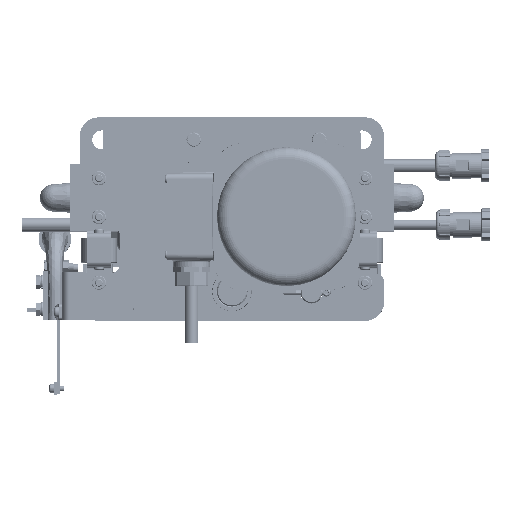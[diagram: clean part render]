
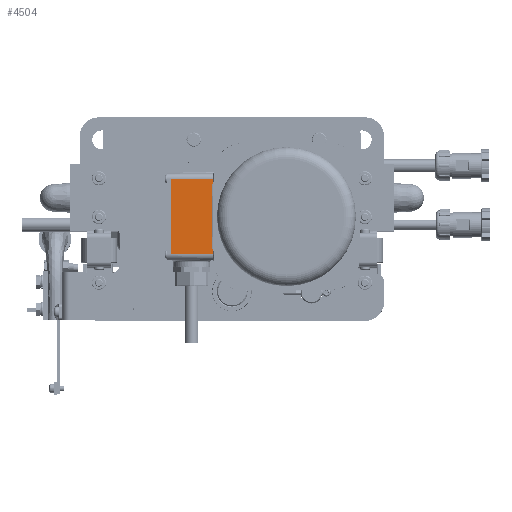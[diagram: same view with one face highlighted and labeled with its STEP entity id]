
A CAD part, top view. The second image highlights one B-rep face of the part: STEP entity #4504.
In plain terms, the highlighted planar face has unit normal (0, 0, 1).
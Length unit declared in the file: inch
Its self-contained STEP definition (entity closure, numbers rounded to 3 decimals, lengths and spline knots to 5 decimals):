
#1045 = DIRECTION ( 'NONE',  ( 0., -1., 0. ) ) ;
#4485 = CARTESIAN_POINT ( 'NONE',  ( 1.74226, 3.00109, 4.17323 ) ) ;
#4504 = ADVANCED_FACE ( 'NONE', ( #5453 ), #19070, .F. ) ;
#5453 = FACE_OUTER_BOUND ( 'NONE', #125910, .T. ) ;
#8469 = EDGE_CURVE ( 'NONE', #12831, #92743, #51914, .T. ) ;
#12831 = VERTEX_POINT ( 'NONE', #190583 ) ;
#18367 = VECTOR ( 'NONE', #1045, 39.37008 ) ;
#19043 = LINE ( 'NONE', #121664, #52642 ) ;
#19070 = PLANE ( 'NONE',  #162166 ) ;
#22897 = DIRECTION ( 'NONE',  ( 1., -0.017, 0. ) ) ;
#25462 = VERTEX_POINT ( 'NONE', #82357 ) ;
#30239 = CARTESIAN_POINT ( 'NONE',  ( 1.77165, 4.68504, 4.17323 ) ) ;
#45700 = VERTEX_POINT ( 'NONE', #105959 ) ;
#46575 = CARTESIAN_POINT ( 'NONE',  ( -1.53543, 4.68504, 4.17323 ) ) ;
#51914 = LINE ( 'NONE', #4485, #76040 ) ;
#52642 = VECTOR ( 'NONE', #123574, 39.37008 ) ;
#64534 = DIRECTION ( 'NONE',  ( 0., 0., -1. ) ) ;
#68496 = CARTESIAN_POINT ( 'NONE',  ( 1.53543, 4.68504, 4.17323 ) ) ;
#72132 = EDGE_CURVE ( 'NONE', #25462, #12831, #19043, .T. ) ;
#75573 = LINE ( 'NONE', #46575, #18367 ) ;
#76040 = VECTOR ( 'NONE', #22897, 39.37008 ) ;
#78117 = CARTESIAN_POINT ( 'NONE',  ( 1.77165, 4.68504, 4.17323 ) ) ;
#82357 = CARTESIAN_POINT ( 'NONE',  ( -1.53543, 3.0047, 4.17323 ) ) ;
#88839 = ORIENTED_EDGE ( 'NONE', *, *, #8469, .T. ) ;
#90198 = DIRECTION ( 'NONE',  ( 1., 0., 0. ) ) ;
#92743 = VERTEX_POINT ( 'NONE', #103502 ) ;
#103502 = CARTESIAN_POINT ( 'NONE',  ( 1.53543, 3.0047, 4.17323 ) ) ;
#103655 = VECTOR ( 'NONE', #186142, 39.37008 ) ;
#105959 = CARTESIAN_POINT ( 'NONE',  ( -1.53543, 4.68504, 4.17323 ) ) ;
#113061 = EDGE_CURVE ( 'NONE', #92743, #168915, #113596, .T. ) ;
#113596 = LINE ( 'NONE', #155246, #103655 ) ;
#114897 = ORIENTED_EDGE ( 'NONE', *, *, #72132, .T. ) ;
#121664 = CARTESIAN_POINT ( 'NONE',  ( -0.00069, 3.03149, 4.17323 ) ) ;
#123574 = DIRECTION ( 'NONE',  ( 1., 0.017, 0. ) ) ;
#125910 = EDGE_LOOP ( 'NONE', ( #114897, #88839, #148202, #180163, #128444 ) ) ;
#128444 = ORIENTED_EDGE ( 'NONE', *, *, #182404, .T. ) ;
#131965 = EDGE_CURVE ( 'NONE', #45700, #168915, #148281, .T. ) ;
#137145 = DIRECTION ( 'NONE',  ( -1., 0., 0. ) ) ;
#148202 = ORIENTED_EDGE ( 'NONE', *, *, #113061, .T. ) ;
#148281 = LINE ( 'NONE', #30239, #158537 ) ;
#155246 = CARTESIAN_POINT ( 'NONE',  ( 1.53543, 4.68504, 4.17323 ) ) ;
#158537 = VECTOR ( 'NONE', #90198, 39.37008 ) ;
#162166 = AXIS2_PLACEMENT_3D ( 'NONE', #78117, #64534, #137145 ) ;
#168915 = VERTEX_POINT ( 'NONE', #68496 ) ;
#180163 = ORIENTED_EDGE ( 'NONE', *, *, #131965, .F. ) ;
#182404 = EDGE_CURVE ( 'NONE', #45700, #25462, #75573, .T. ) ;
#186142 = DIRECTION ( 'NONE',  ( 0., 1., 0. ) ) ;
#190583 = CARTESIAN_POINT ( 'NONE',  ( 0., 3.0315, 4.17323 ) ) ;
